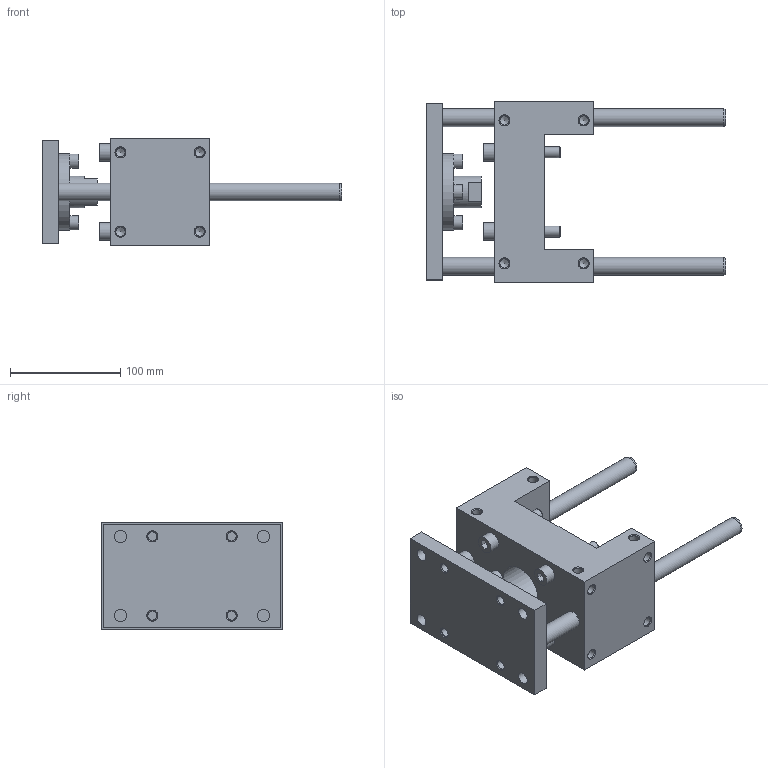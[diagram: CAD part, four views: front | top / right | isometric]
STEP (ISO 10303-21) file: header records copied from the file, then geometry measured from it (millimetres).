
FILE_DESCRIPTION( ( 'STEP AP214' ), '1' );
FILE_NAME( 'U:/Etudes/Top Solid/BIBLIO 3D AVM/TOP/PNEUMATIQUE/GUIDAGES/Type 34 (en U)/_Légère/3482130.step', '2005-05-27T12:34:49', ( ' ' ), ( ' ' ), 'XStep 1.0', ' ', ' ' );
FILE_SCHEMA( ( 'automotive_design' ) );
Length unit declared in the file: metre
Products named in the file (2): 1; 2
Bounding box: 272 x 165 x 98 mm (x, y, z)
Volume: 1242714.6 mm3; surface area: 193251.2 mm2
Topology: 2 solids, 7 shells, 245 faces, 598 edges, 389 vertices
Faces by surface type: plane 108, cylinder 92, cone 45
Full cylindrical faces by diameter (mm): 4.918 x4, 8 x8, 8.376 x32, 8.5 x4, 10 x8, 11 x8, 13 x4, 16 x8, 18.376 x2, 29 x1, 32 x1, 42 x1, 45 x2, 70 x1
Entity records: 8253 total; most frequent: CARTESIAN_POINT 1235, DIRECTION 1080, ORIENTED_EDGE 790, AXIS2_PLACEMENT_3D 446, EDGE_LOOP 436, EDGE_CURVE 395, FACE_OUTER_BOUND 329, VERTEX_POINT 329
